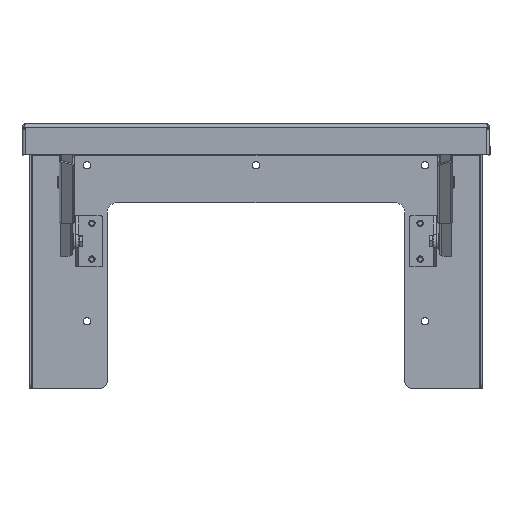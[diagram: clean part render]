
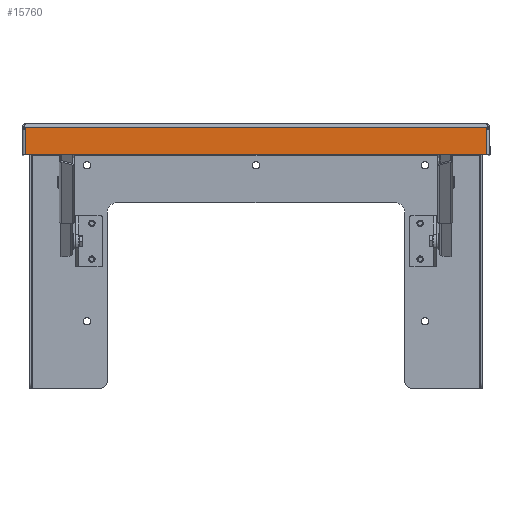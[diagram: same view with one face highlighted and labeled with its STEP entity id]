
A CAD part, top view. The second image highlights one B-rep face of the part: STEP entity #15760.
In plain terms, the highlighted planar face has unit normal (0, 0, 1) as drawn and (0, -1, 0) by its records, which use the part's own axes.
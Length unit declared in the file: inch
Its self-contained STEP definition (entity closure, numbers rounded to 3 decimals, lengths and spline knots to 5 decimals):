
#3889 = LINE ( 'NONE', #4055, #3903 ) ;
#3903 = VECTOR ( 'NONE', #4061, 39.37008 ) ;
#3905 = LINE ( 'NONE', #4091, #3906 ) ;
#3906 = VECTOR ( 'NONE', #4092, 39.37008 ) ;
#3908 = LINE ( 'NONE', #4093, #3911 ) ;
#3910 = VECTOR ( 'NONE', #4144, 39.37008 ) ;
#3911 = VECTOR ( 'NONE', #4096, 39.37008 ) ;
#3913 = LINE ( 'NONE', #4097, #3914 ) ;
#3914 = VECTOR ( 'NONE', #4098, 39.37008 ) ;
#3925 = LINE ( 'NONE', #4109, #3926 ) ;
#3926 = VECTOR ( 'NONE', #4110, 39.37008 ) ;
#3929 = LINE ( 'NONE', #4117, #3933 ) ;
#3932 = LINE ( 'NONE', #4143, #3910 ) ;
#3933 = VECTOR ( 'NONE', #4120, 39.37008 ) ;
#3937 = LINE ( 'NONE', #4145, #3938 ) ;
#3938 = VECTOR ( 'NONE', #4146, 39.37008 ) ;
#4055 = CARTESIAN_POINT ( 'NONE',  ( 8.86839, -8.94, 0.197 ) ) ;
#4061 = DIRECTION ( 'NONE',  ( 0., 0., 1. ) ) ;
#4091 = CARTESIAN_POINT ( 'NONE',  ( -8.91386, -8.94, 0.197 ) ) ;
#4092 = DIRECTION ( 'NONE',  ( 1., 0., 0. ) ) ;
#4093 = CARTESIAN_POINT ( 'NONE',  ( -8.86839, -8.94, 1.192 ) ) ;
#4096 = DIRECTION ( 'NONE',  ( 0., 0., -1. ) ) ;
#4097 = CARTESIAN_POINT ( 'NONE',  ( -8.868, -8.94, 1.192 ) ) ;
#4098 = DIRECTION ( 'NONE',  ( -1., 0., 0. ) ) ;
#4109 = CARTESIAN_POINT ( 'NONE',  ( 8.91386, -8.94, 0.197 ) ) ;
#4110 = DIRECTION ( 'NONE',  ( -1., 0., 0. ) ) ;
#4117 = CARTESIAN_POINT ( 'NONE',  ( -8.91386, -8.94, 0.132 ) ) ;
#4120 = DIRECTION ( 'NONE',  ( 0., 0., 1. ) ) ;
#4143 = CARTESIAN_POINT ( 'NONE',  ( 8.91386, -8.94, 0.132 ) ) ;
#4144 = DIRECTION ( 'NONE',  ( 0., 0., 1. ) ) ;
#4145 = CARTESIAN_POINT ( 'NONE',  ( -8.868, -8.94, 0.132 ) ) ;
#4146 = DIRECTION ( 'NONE',  ( -1., 0., 0. ) ) ;
#6289 = AXIS2_PLACEMENT_3D ( 'NONE', #6513, #6523, #6524 ) ;
#6336 = FACE_OUTER_BOUND ( 'NONE', #13678, .T. ) ;
#6513 = CARTESIAN_POINT ( 'NONE',  ( -8.868, -8.94, 1.192 ) ) ;
#6518 = PLANE ( 'NONE',  #6289 ) ;
#6523 = DIRECTION ( 'NONE',  ( 0., 1., 0. ) ) ;
#6524 = DIRECTION ( 'NONE',  ( 0., 0., 1. ) ) ;
#11743 = VERTEX_POINT ( 'NONE', #16671 ) ;
#11745 = VERTEX_POINT ( 'NONE', #16673 ) ;
#11747 = VERTEX_POINT ( 'NONE', #16675 ) ;
#11749 = VERTEX_POINT ( 'NONE', #16677 ) ;
#11750 = VERTEX_POINT ( 'NONE', #16678 ) ;
#11752 = VERTEX_POINT ( 'NONE', #16680 ) ;
#11756 = VERTEX_POINT ( 'NONE', #16684 ) ;
#11757 = VERTEX_POINT ( 'NONE', #16685 ) ;
#13678 = EDGE_LOOP ( 'NONE', ( #14659, #14660, #14661, #14662, #14663, #14664, #14665, #14666 ) ) ;
#14635 = EDGE_CURVE ( 'NONE', #11749, #11743, #3889, .T. ) ;
#14639 = EDGE_CURVE ( 'NONE', #11750, #11747, #3905, .T. ) ;
#14641 = EDGE_CURVE ( 'NONE', #11745, #11747, #3908, .T. ) ;
#14642 = EDGE_CURVE ( 'NONE', #11743, #11745, #3913, .T. ) ;
#14648 = EDGE_CURVE ( 'NONE', #11752, #11749, #3925, .T. ) ;
#14659 = ORIENTED_EDGE ( 'NONE', *, *, #14828, .F. ) ;
#14660 = ORIENTED_EDGE ( 'NONE', *, *, #14827, .T. ) ;
#14661 = ORIENTED_EDGE ( 'NONE', *, *, #14648, .T. ) ;
#14662 = ORIENTED_EDGE ( 'NONE', *, *, #14635, .T. ) ;
#14663 = ORIENTED_EDGE ( 'NONE', *, *, #14642, .T. ) ;
#14664 = ORIENTED_EDGE ( 'NONE', *, *, #14641, .T. ) ;
#14665 = ORIENTED_EDGE ( 'NONE', *, *, #14639, .F. ) ;
#14666 = ORIENTED_EDGE ( 'NONE', *, *, #14823, .F. ) ;
#14823 = EDGE_CURVE ( 'NONE', #11756, #11750, #3929, .T. ) ;
#14827 = EDGE_CURVE ( 'NONE', #11757, #11752, #3932, .T. ) ;
#14828 = EDGE_CURVE ( 'NONE', #11757, #11756, #3937, .T. ) ;
#15760 = ADVANCED_FACE ( 'NONE', ( #6336 ), #6518, .F. ) ;
#16671 = CARTESIAN_POINT ( 'NONE',  ( 8.86839, -8.94, 1.192 ) ) ;
#16673 = CARTESIAN_POINT ( 'NONE',  ( -8.86839, -8.94, 1.192 ) ) ;
#16675 = CARTESIAN_POINT ( 'NONE',  ( -8.86839, -8.94, 0.197 ) ) ;
#16677 = CARTESIAN_POINT ( 'NONE',  ( 8.86839, -8.94, 0.197 ) ) ;
#16678 = CARTESIAN_POINT ( 'NONE',  ( -8.91386, -8.94, 0.197 ) ) ;
#16680 = CARTESIAN_POINT ( 'NONE',  ( 8.91386, -8.94, 0.197 ) ) ;
#16684 = CARTESIAN_POINT ( 'NONE',  ( -8.91386, -8.94, 0.132 ) ) ;
#16685 = CARTESIAN_POINT ( 'NONE',  ( 8.91386, -8.94, 0.132 ) ) ;
